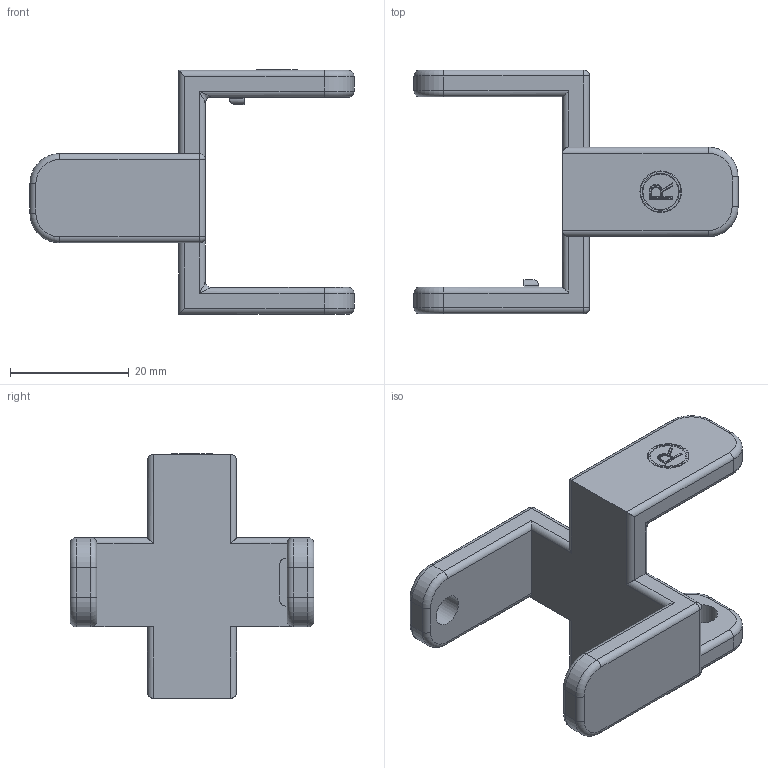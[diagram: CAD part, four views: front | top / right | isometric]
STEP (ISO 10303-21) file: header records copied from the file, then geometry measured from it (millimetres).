
FILE_DESCRIPTION(/* description */ ('STEP AP242 Edition 2','CAx-IF Rec.Pracs.---Representation and Presentation of Product Manufacturing Information (PMI)---4.0---2014-10-13','CAx-IF Rec.Pracs.---3D Tessellated Geometry---0.4---2014-09-14','2;1','CAx-IF Rec.Pracs.---User Defined Attributes---1.5---2016-08-15'),/* implementation_level */ '2;1');
FILE_NAME(/* name */ 'HIRO posing assembly - Right Shoulder',/* time_stamp */ '2026-11-04T05:15:24Z',/* author */ (''),/* organization */ (''),/* preprocessor_version */ 'ST-DEVELOPER v20',/* originating_system */ 'ONSHAPE BY PTC INC, 1.223',/* authorisation */ ' ');
FILE_SCHEMA (('AP242_MANAGED_MODEL_BASED_3D_ENGINEERING_MIM_LF { 1 0 10303 442 3 1 4 }'));
Length unit declared in the file: metre
Products named in the file (1): Right Shoulder
Bounding box: 54.5 x 41 x 41.1 mm (x, y, z)
Volume: 10351.5 mm3; surface area: 6501.8 mm2
Topology: 1 solids, 1 shells, 150 faces, 367 edges, 213 vertices
Faces by surface type: cylinder 73, plane 44, torus 18, bspline 11, sphere 4
Full cylindrical faces by diameter (mm): 5.3 x2
Entity records: 4434 total; most frequent: CARTESIAN_POINT 916, DIRECTION 768, ORIENTED_EDGE 708, EDGE_CURVE 354, AXIS2_PLACEMENT_3D 289, VERTEX_POINT 212, LINE 190, VECTOR 190
